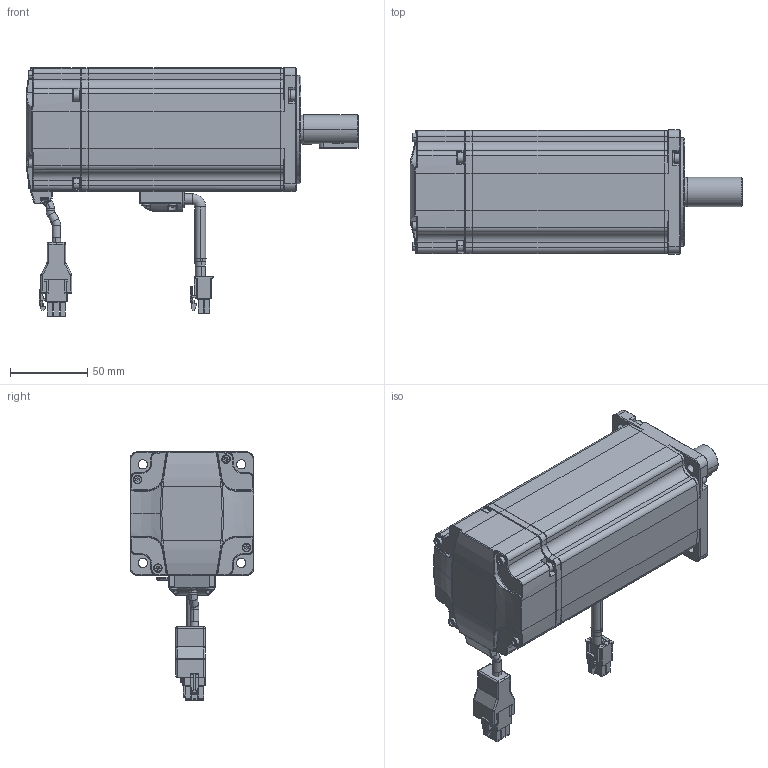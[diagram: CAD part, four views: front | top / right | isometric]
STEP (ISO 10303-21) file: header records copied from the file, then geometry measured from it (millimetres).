
FILE_DESCRIPTION (( 'STEP AP203' ), '1' );
FILE_NAME ('EM3A10A-100-A3-S（永磁交流伺服电机）.STEP', '2019-05-27T01:58:00', ( '' ), ( '' ), 'SwSTEP 2.0', 'SolidWorks 2018', '' );
FILE_SCHEMA (( 'CONFIG_CONTROL_DESIGN' ));
Length unit declared in the file: millimetre
Products named in the file (1): EM3A10A-100-A3-S（永磁交流伺服电机）
Bounding box: 214.5 x 80 x 160.62 mm (x, y, z)
Surface area: 87053.7 mm2 (no closed solid volume)
Topology: 0 solids, 61 shells, 1269 faces, 3719 edges, 2432 vertices
Faces by surface type: plane 485, cylinder 424, cone 133, torus 115, bspline 74, sphere 38
Entity records: 56029 total; most frequent: CARTESIAN_POINT 31089, ORIENTED_EDGE 6265, EDGE_CURVE 3669, B_SPLINE_CURVE_WITH_KNOTS 3603, VERTEX_POINT 2432, DIRECTION 2392, EDGE_LOOP 1389, FACE_OUTER_BOUND 1269
